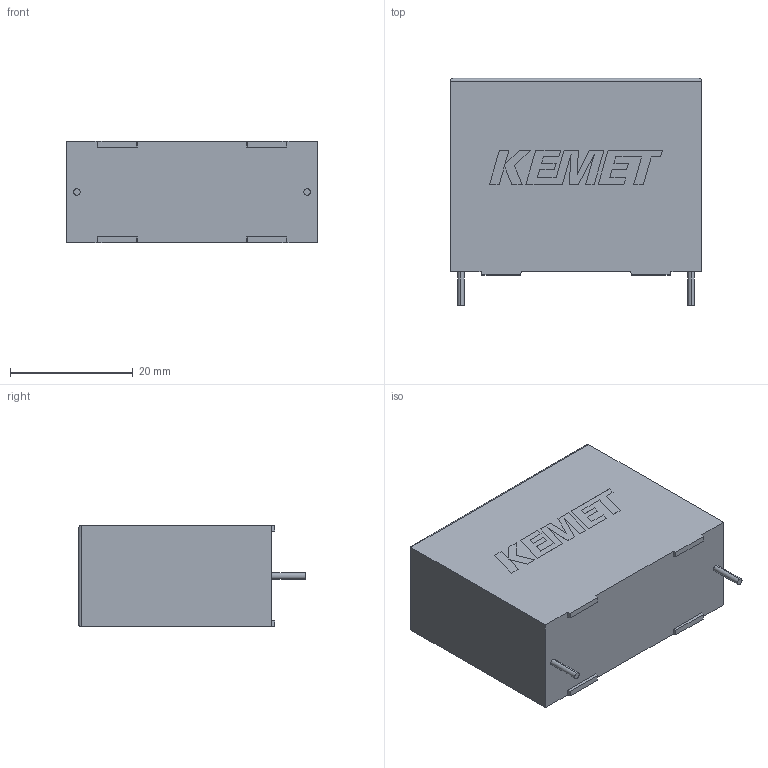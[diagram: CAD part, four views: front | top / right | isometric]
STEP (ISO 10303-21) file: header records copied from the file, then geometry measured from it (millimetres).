
FILE_DESCRIPTION (( 'STEP AP214' ), '1' );
FILE_NAME ('CFR_RBG_41X32X16.5_L41H32T16.5S37.5LL5F1.05G0.5.STEP', '2017-12-06T16:22:54', ( '' ), ( '' ), 'SwSTEP 2.0', 'SolidWorks 2014', '' );
FILE_SCHEMA (( 'AUTOMOTIVE_DESIGN' ));
Length unit declared in the file: millimetre
Products named in the file (1): CFR_RBG_41X32X16.5_L41H32T16.5S37.5LL5F1.05G0.5
Bounding box: 41 x 37 x 16.5 mm (x, y, z)
Volume: 21325.7 mm3; surface area: 5196.4 mm2
Topology: 4 solids, 4 shells, 89 faces, 233 edges, 154 vertices
Faces by surface type: plane 81, cylinder 8
Entity records: 3096 total; most frequent: CARTESIAN_POINT 489, ORIENTED_EDGE 466, DIRECTION 417, EDGE_CURVE 233, LINE 221, VECTOR 221, VERTEX_POINT 154, AXIS2_PLACEMENT_3D 98
